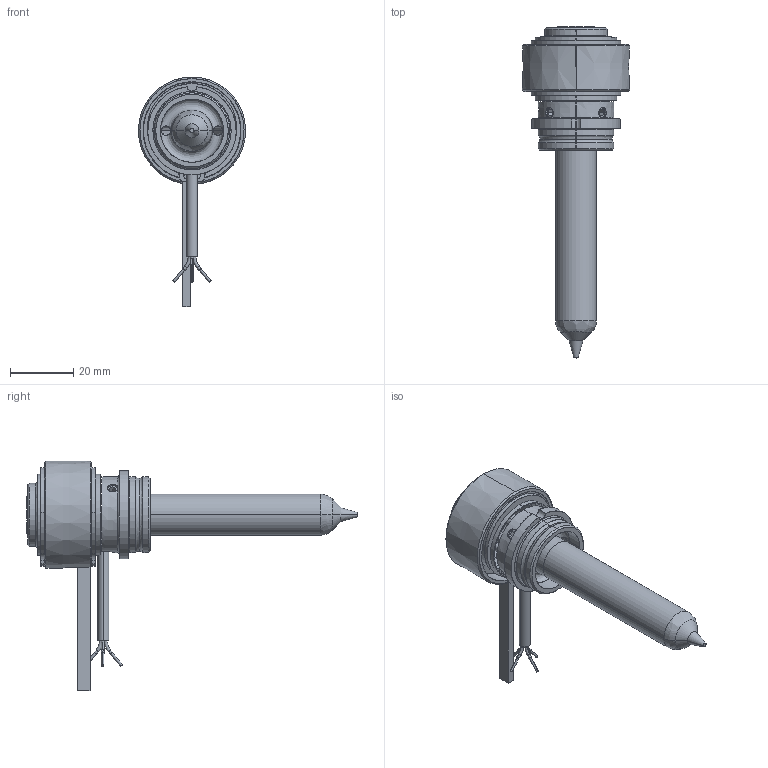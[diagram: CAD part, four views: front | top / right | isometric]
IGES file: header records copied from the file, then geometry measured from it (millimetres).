
Start section: SolidWorks IGES file using analytic representation for surfaces
Global section: file name: C:\Documents and Settings\ws-20\Desktop\TEM\UGGS2540-M-0 [Øf-1.30].IGS; native system: SolidWorks 2012; preprocessor: SolidWorks 2012; author: ws-20; date: 120516.093330; units: millimetre
Bounding box: 34 x 105.3 x 72.9 mm (x, y, z)
Surface area: 16092.6 mm2 (no closed solid volume)
Topology: 0 solids, 0 shells, 206 faces, 2885 edges, 2879 vertices
Faces by surface type: revolution 123, bspline 83
